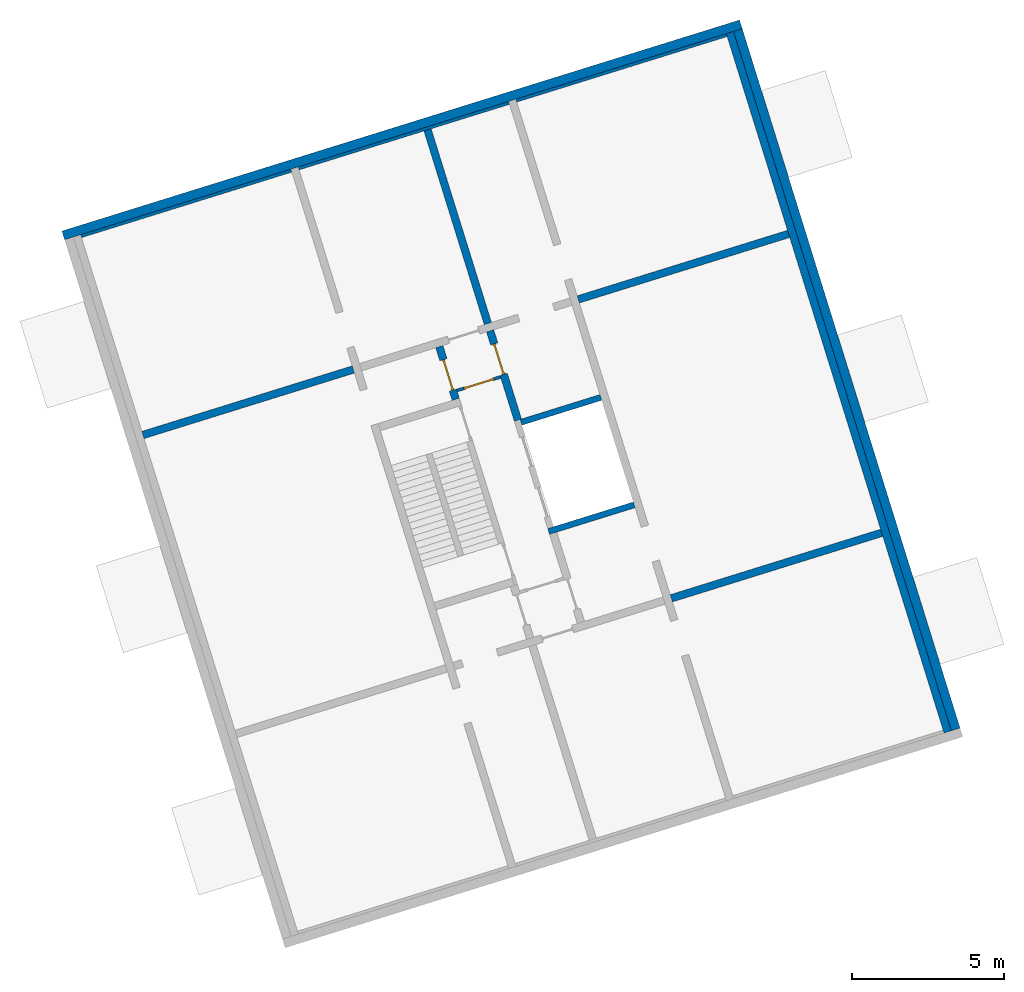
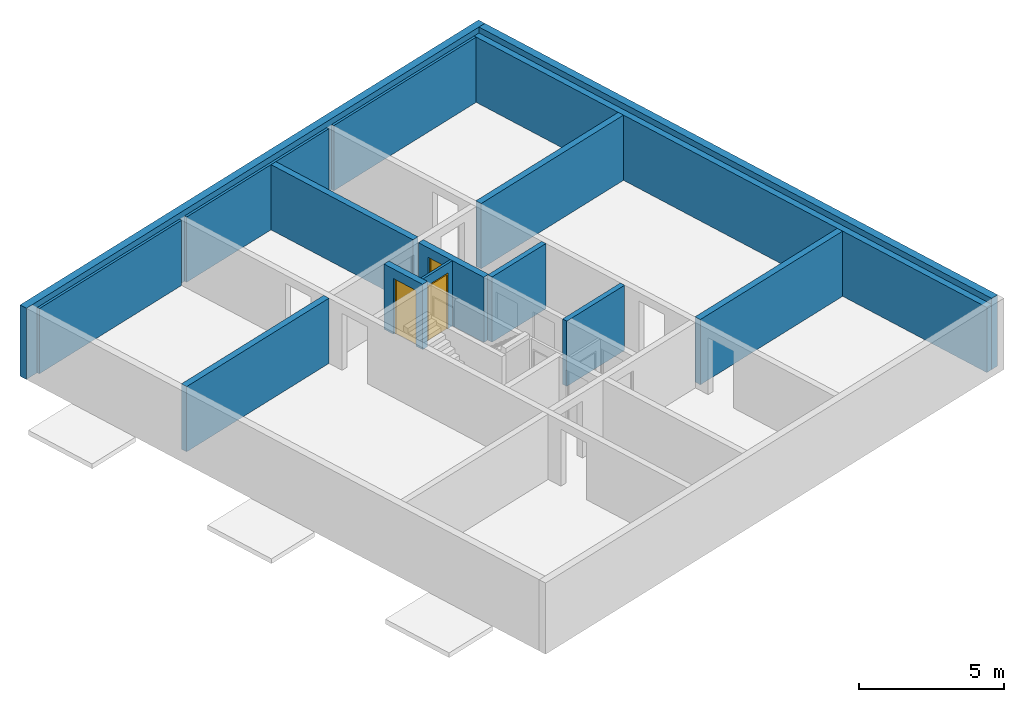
# One storey, part 2 of 4: 15 walls, 3 doors, 3 openings.
"""IFC4 building model written with IfcOpenShell, lengths in metres."""

import ifcopenshell
import ifcopenshell.guid

model = None  # the IFC model being written
_history = None  # IfcOwnerHistory: only IFC2X3 demands one
_inside = {}  # id of a spatial element -> (the spatial element, [elements in it])
_under = {}  # id of a project, library or spatial element -> (it, [spatial elements below it])
_declared = {}  # id of a project -> (the project, [libraries it declares])
_typed = {}  # id of a type object -> (the type object, [elements of that type])
_made_of = {}  # id of a material, layer set ... -> (it, [elements and type objects made of it])


def new_model(schema):
    """Start an empty IFC model of exactly this schema.

    Asked for "IFC4X3", IfcOpenShell would pick the latest addendum, in which some entities
    have other attributes; the version numbers below select the first issue.
    IFC2X3 requires an IfcOwnerHistory on every rooted entity: one is made here for all.
    """
    global model, _history
    if schema == "IFC4X3":
        model = ifcopenshell.file(schema_version=(4, 3, 0, 0))
    else:
        model = ifcopenshell.file(schema=schema)
    _inside.clear()
    _under.clear()
    _declared.clear()
    _typed.clear()
    _made_of.clear()
    _history = None
    if model.schema == "IFC2X3":
        org = make("IfcOrganization", Name="unknown")
        user = make(
            "IfcPersonAndOrganization",
            ThePerson=make("IfcPerson", FamilyName="unknown"),
            TheOrganization=org,
        )
        app = make(
            "IfcApplication",
            ApplicationDeveloper=org,
            Version="unknown",
            ApplicationFullName="unknown",
            ApplicationIdentifier="unknown",
        )
        _history = make(
            "IfcOwnerHistory",
            OwningUser=user,
            OwningApplication=app,
            ChangeAction="ADDED",
            CreationDate=0,
        )
    return model


def make(cls, **values):
    """One entity of the class cls with the attributes given. An attribute that is None is left unset."""
    return model.create_entity(
        cls, **{name: value for name, value in values.items() if value is not None}
    )


def entity(cls, *values):
    """Any entity or typed value of the class cls, its attributes in the order of the schema. None: left unset."""
    e = model.create_entity(cls)
    for i, value in enumerate(values):
        if value is not None:
            e[i] = value
    return e


def rooted(cls, **values):
    """An entity with a GlobalId (a new one), such as an element, a storey or a relation."""
    return make(cls, GlobalId=ifcopenshell.guid.new(), OwnerHistory=_history, **values)


def si_unit(unit_type, name, prefix=None):
    """IfcSIUnit, for example si_unit("LENGTHUNIT", "METRE", prefix="MILLI")."""
    return make("IfcSIUnit", UnitType=unit_type, Prefix=prefix, Name=name)


def converted_unit(unit_type, name, factor, base, dimensions=None, offset=None):
    """IfcConversionBasedUnit, such as the inch: factor (a typed value) times the base unit."""
    return make(
        "IfcConversionBasedUnit"
        if offset is None
        else "IfcConversionBasedUnitWithOffset",
        ConversionOffset=offset,
        Dimensions=None
        if dimensions is None
        else entity("IfcDimensionalExponents", *dimensions),
        UnitType=unit_type,
        Name=name,
        ConversionFactor=make(
            "IfcMeasureWithUnit", ValueComponent=factor, UnitComponent=base
        ),
    )


def assignment(units):
    """IfcUnitAssignment: the units of a project."""
    return None if units is None else make("IfcUnitAssignment", Units=units)


def point(xyz):
    """IfcCartesianPoint."""
    return None if xyz is None else make("IfcCartesianPoint", Coordinates=xyz)


def direction(xyz):
    """IfcDirection."""
    return None if xyz is None else make("IfcDirection", DirectionRatios=xyz)


def frame(location, z_axis=None, x_axis=None):
    """IfcAxis2Placement3D, a coordinate frame: its origin and axes. An axis left out is left unset."""
    return make(
        "IfcAxis2Placement3D",
        Location=point(location),
        Axis=direction(z_axis),
        RefDirection=direction(x_axis),
    )


def origin():
    """The frame at (0, 0, 0) with its axes left unset."""
    return frame((0.0, 0.0, 0.0))


def place(relative_to, where):
    """IfcLocalPlacement: puts the frame where relative to a parent placement (None: the world)."""
    return make(
        "IfcLocalPlacement", PlacementRelTo=relative_to, RelativePlacement=where
    )


def context(
    kind, dimensions, precision=None, world=None, true_north=None, identifier=None
):
    """IfcGeometricRepresentationContext, for example the 3D "Model" context."""
    return make(
        "IfcGeometricRepresentationContext",
        ContextIdentifier=identifier,
        ContextType=kind,
        CoordinateSpaceDimension=dimensions,
        Precision=precision,
        WorldCoordinateSystem=world,
        TrueNorth=true_north,
    )


def subcontext(parent, identifier, kind, view, scale=None):
    """IfcGeometricRepresentationSubContext, for example "Body" below "Model"."""
    return make(
        "IfcGeometricRepresentationSubContext",
        ContextIdentifier=identifier,
        ContextType=kind,
        ParentContext=parent,
        TargetScale=scale,
        TargetView=view,
    )


def project(units=None, contexts=None):
    """IfcProject with its units and contexts."""
    return rooted(
        "IfcProject",
        Name="project",
        RepresentationContexts=contexts,
        UnitsInContext=assignment(units),
    )


def spatial(cls, under=None, at=None, **own):
    """A site, building, storey or space (cls), placed at a placement, below another one or the project."""
    s = rooted(cls, ObjectPlacement=at, **own)
    if under is not None:
        _under.setdefault(under.id(), (under, []))[1].append(s)
    return s


def point_list(points):
    """IfcCartesianPointList2D or 3D."""
    cls = (
        "IfcCartesianPointList2D" if len(points[0]) == 2 else "IfcCartesianPointList3D"
    )
    return make(cls, CoordList=points)


def indexed_curve(points, segments=None, self_intersect=None):
    """IfcIndexedPolyCurve: lines and arcs through numbered points (the first is 1)."""
    return make(
        "IfcIndexedPolyCurve",
        Points=point_list(points),
        Segments=segments,
        SelfIntersect=self_intersect,
    )


def outline(outer, holes=None, kind="AREA"):
    """IfcArbitraryClosedProfileDef: a profile drawn as a closed curve; with holes, ...WithVoids."""
    if holes is None:
        return make("IfcArbitraryClosedProfileDef", ProfileType=kind, OuterCurve=outer)
    return make(
        "IfcArbitraryProfileDefWithVoids",
        ProfileType=kind,
        OuterCurve=outer,
        InnerCurves=holes,
    )


def extrude(swept, where, along, depth):
    """IfcExtrudedAreaSolid: the profile swept, set in the frame where, extruded along a direction by depth."""
    return make(
        "IfcExtrudedAreaSolid",
        SweptArea=swept,
        Position=where,
        ExtrudedDirection=direction(along),
        Depth=depth,
    )


def polygons(points, faces, closed=None, point_numbers=None):
    """IfcPolygonalFaceSet: a face is its outer loop, then its inner loops; points numbered from 1."""
    made = []
    for loops in faces:
        if len(loops) == 1:
            made.append(make("IfcIndexedPolygonalFace", CoordIndex=loops[0]))
        else:
            made.append(
                make(
                    "IfcIndexedPolygonalFaceWithVoids",
                    CoordIndex=loops[0],
                    InnerCoordIndices=loops[1:],
                )
            )
    return make(
        "IfcPolygonalFaceSet",
        Coordinates=point_list(points),
        Closed=closed,
        Faces=made,
        PnIndex=point_numbers,
    )


def shape(context_of_items, identifier, shape_type, items):
    """IfcShapeRepresentation: the items that make up one representation, for example the "Body"."""
    return make(
        "IfcShapeRepresentation",
        ContextOfItems=context_of_items,
        RepresentationIdentifier=identifier,
        RepresentationType=shape_type,
        Items=items,
    )


def source(mapping_origin, context_of_items, identifier, shape_type, items):
    """IfcRepresentationMap: a shape defined once, which mapped items show again and again."""
    return make(
        "IfcRepresentationMap",
        MappingOrigin=mapping_origin,
        MappedRepresentation=shape(context_of_items, identifier, shape_type, items),
    )


def transform(
    local_origin,
    x_axis=None,
    y_axis=None,
    z_axis=None,
    scale=None,
    scale2=None,
    scale3=None,
    uniform=True,
):
    """IfcCartesianTransformationOperator3D, or its non-uniform kind. x_axis, y_axis, z_axis: its Axis1, 2, 3."""
    if uniform:
        return make(
            "IfcCartesianTransformationOperator3D",
            Axis1=direction(x_axis),
            Axis2=direction(y_axis),
            LocalOrigin=point(local_origin),
            Scale=scale,
            Axis3=direction(z_axis),
        )
    return make(
        "IfcCartesianTransformationOperator3DnonUniform",
        Axis1=direction(x_axis),
        Axis2=direction(y_axis),
        LocalOrigin=point(local_origin),
        Scale=scale,
        Axis3=direction(z_axis),
        Scale2=scale2,
        Scale3=scale3,
    )


def mapped(mapping_source, mapping_target):
    """IfcMappedItem: shows the shape of a source again, moved by a transform."""
    return make(
        "IfcMappedItem", MappingSource=mapping_source, MappingTarget=mapping_target
    )


def material(Name=None, Category=None):
    """IfcMaterial."""
    return make("IfcMaterial", Name=Name, Category=Category)


def constituent(of_material, Name=None, Category=None, fraction=None):
    """IfcMaterialConstituent: one of the materials an element consists of."""
    return make(
        "IfcMaterialConstituent",
        Name=Name,
        Material=of_material,
        Fraction=fraction,
        Category=Category,
    )


def constituent_set(constituents=None, Name=None):
    """IfcMaterialConstituentSet."""
    return make(
        "IfcMaterialConstituentSet", Name=Name, MaterialConstituents=constituents
    )


def made_of(thing, what):
    """Note that an element or type object is made of a material, layer set ...; save() writes the relation."""
    if what is not None:
        _made_of.setdefault(what.id(), (what, []))[1].append(thing)
    return thing


def type_object(cls, material=None, **own):
    """A type object (cls), such as IfcWallType, which elements share."""
    return made_of(rooted(cls, **own), material)


def type_shapes(of_type, sources):
    """Give a type object the sources (RepresentationMaps) that its elements show as mapped items."""
    of_type.RepresentationMaps = sources


def element(
    cls,
    number,
    at=None,
    inside=None,
    cuts=None,
    type_object=None,
    material=None,
    context=None,
    identifier="Body",
    shape_type=None,
    held_by="IfcProductDefinitionShape",
    body=None,
    shapes=None,
    **own,
):
    """One element of the class cls, such as IfcWall. Its Tag is "e" and its number.

    at: its placement. inside: the storey or other place that contains it. cuts: it is an
    opening in that element (IfcRelVoidsElement). A single representation is given by context,
    identifier, shape_type and body (its items); several are given by shapes. held_by: the class
    of the entity that holds the representations. save() writes the other relations.
    """
    e = rooted(cls, Tag="e%d" % number, ObjectPlacement=at, **own)
    if body is not None:
        shapes = [shape(context, identifier, shape_type, body)]
    if shapes is not None:
        e.Representation = make(held_by, Representations=shapes)
    if inside is not None:
        _inside.setdefault(inside.id(), (inside, []))[1].append(e)
    if cuts is not None:
        rooted(
            "IfcRelVoidsElement", RelatingBuildingElement=cuts, RelatedOpeningElement=e
        )
    if type_object is not None:
        _typed.setdefault(type_object.id(), (type_object, []))[1].append(e)
    return made_of(e, material)


def fill(opening, filler):
    """IfcRelFillsElement: the door or window that sits in an opening."""
    return rooted(
        "IfcRelFillsElement",
        RelatingOpeningElement=opening,
        RelatedBuildingElement=filler,
    )


def aggregate(whole, parts):
    """IfcRelAggregates: a whole, such as a stair, and the parts it consists of."""
    return rooted("IfcRelAggregates", RelatingObject=whole, RelatedObjects=parts)


def save(model, path):
    """Write the relations noted so far, then the file.

    IfcRelAggregates (storeys below a building ...), IfcRelContainedInSpatialStructure (elements
    in a storey), IfcRelDefinesByType, IfcRelAssociatesMaterial and IfcRelDeclares: one each for
    every whole, place, type object, material and project.
    """
    for whole, parts in _under.values():
        aggregate(whole, parts)
    for where, things in _inside.values():
        rooted(
            "IfcRelContainedInSpatialStructure",
            RelatedElements=things,
            RelatingStructure=where,
        )
    for kind, things in _typed.values():
        rooted("IfcRelDefinesByType", RelatedObjects=things, RelatingType=kind)
    for what, things in _made_of.values():
        rooted("IfcRelAssociatesMaterial", RelatedObjects=things, RelatingMaterial=what)
    for by, libraries in _declared.values():
        rooted("IfcRelDeclares", RelatingContext=by, RelatedDefinitions=libraries)
    model.write(path)


model = new_model("IFC4")

# Units and contexts
model_context = context("Model", 3, precision=1e-05, world=origin(), true_north=direction((6.12323399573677e-17, 1.0)))
body_context = subcontext(model_context, "Body", "Model", "MODEL_VIEW")
ifc_project = project(units=[si_unit("LENGTHUNIT", "METRE"), si_unit("AREAUNIT", "SQUARE_METRE"), si_unit("VOLUMEUNIT", "CUBIC_METRE"), converted_unit("PLANEANGLEUNIT", "DEGREE", entity("IfcPlaneAngleMeasure", 0.0174532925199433), si_unit("PLANEANGLEUNIT", "RADIAN"), dimensions=[0, 0, 0, 0, 0, 0, 0])], contexts=[model_context])

# Site, building, storey
site_placement = place(None, frame((13.1347999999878, 11.9886000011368, 0.0), z_axis=(0.0, 0.0, 1.0), x_axis=(0.954770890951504, 0.297342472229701, 0.0)))
site = spatial("IfcSite", under=ifc_project, at=site_placement, Name="Schiehaven", CompositionType="ELEMENT")
building_placement = place(site_placement, origin())
building = spatial("IfcBuilding", under=site, at=building_placement, Name="VORM huis", CompositionType="ELEMENT")
storey_placement = place(building_placement, frame((0.0, 0.0, 21.9)))
storey = spatial("IfcBuildingStorey", under=building, at=storey_placement, Name="07 zevende verdieping", CompositionType="ELEMENT", Elevation=21.9)

# Walls
ifc_material_1 = material(Name="beton_gewapend_ihw", Category="Miscellaneous")
wall_type_1 = type_object("IfcWallType", Name="Basic Wall:28_WA_skelet_wand 250mm_gen", PredefinedType="STANDARD")
wall_1_placement = place(storey_placement, frame((80.0, 5.0, 0.0), z_axis=(0.0, 0.0, 1.0), x_axis=(0.0, 1.0, 0.0)))
element("IfcWall", 1, at=wall_1_placement, inside=storey, type_object=wall_type_1, material=ifc_material_1, Name="Constructieve wand", ObjectType="Wand", PredefinedType="NOTDEFINED", context=body_context, shape_type="SweptSolid", body=[
    extrude(outline(indexed_curve([(24.1, 0.125000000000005), (1.84706995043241e-16, 0.125000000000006), (-1.84706995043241e-16, -0.125000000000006), (24.1, -0.125000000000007), (24.1, 0.125000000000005)], self_intersect=False)), origin(), (0.0, 0.0, 1.0), 2.75),
])
ifc_material_2 = material(Name="ntb_ntb_ntb", Category="Miscellaneous")
wall_type_2 = type_object("IfcWallType", Name="Basic Wall:21_WA_gevel_binnenspouwwand 100mm_gen", PredefinedType="STANDARD")
wall_2_placement = place(storey_placement, frame((79.8750000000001, 29.0499999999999, 0.0), z_axis=(0.0, 0.0, 1.0), x_axis=(-1.0, 0.0, 0.0)))
element("IfcWall", 2, at=wall_2_placement, inside=storey, type_object=wall_type_2, material=ifc_material_2, Name="Binnenspouwblad", ObjectType="Wand", PredefinedType="NOTDEFINED", context=body_context, shape_type="SweptSolid", body=[
    extrude(outline(indexed_curve([(7.24999999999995, 0.0500000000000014), (-2.83038752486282e-17, 0.0500000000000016), (2.83038752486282e-17, -0.0500000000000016), (7.24999999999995, -0.0500000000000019), (7.24999999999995, 0.0500000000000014)], self_intersect=False)), origin(), (0.0, 0.0, 1.0), 2.75),
])
wall_3_placement = place(storey_placement, frame((65.1250000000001, 29.0499999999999, 0.0)))
element("IfcWall", 3, at=wall_3_placement, inside=storey, type_object=wall_type_2, material=ifc_material_2, Name="Binnenspouwblad", ObjectType="Wand", PredefinedType="NOTDEFINED", context=body_context, shape_type="SweptSolid", body=[
    extrude(outline(indexed_curve([(7.24999999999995, 0.0500000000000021), (-1.82497125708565e-16, 0.0500000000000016), (1.82497125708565e-16, -0.0500000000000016), (7.24999999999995, -0.0500000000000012), (7.24999999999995, 0.0500000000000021)], self_intersect=False)), origin(), (0.0, 0.0, 1.0), 2.75),
])
wall_4_placement = place(storey_placement, frame((64.8750000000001, 29.0499999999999, 0.0), z_axis=(0.0, 0.0, 1.0), x_axis=(-1.0, 0.0, 0.0)))
element("IfcWall", 4, at=wall_4_placement, inside=storey, type_object=wall_type_2, material=ifc_material_2, Name="Binnenspouwblad", ObjectType="Wand", PredefinedType="NOTDEFINED", context=body_context, shape_type="SweptSolid", body=[
    extrude(outline(indexed_curve([(7.24999999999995, 0.0500000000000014), (-2.83038752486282e-17, 0.0500000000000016), (2.83038752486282e-17, -0.0500000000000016), (7.24999999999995, -0.0500000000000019), (7.24999999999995, 0.0500000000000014)], self_intersect=False)), origin(), (0.0, 0.0, 1.0), 2.75),
])
wall_type_3 = type_object("IfcWallType", Name="Basic Wall: 300mm_gen", PredefinedType="STANDARD")
wall_5_placement = place(storey_placement, frame((80.2750000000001, 5.0, 0.0), z_axis=(0.0, 0.0, 1.0), x_axis=(0.0, 1.0, 0.0)))
element("IfcWall", 5, at=wall_5_placement, inside=storey, type_object=wall_type_3, material=ifc_material_2, Name="Gevelwand", ObjectType="Wand", PredefinedType="NOTDEFINED", context=body_context, shape_type="SweptSolid", body=[
    extrude(outline(indexed_curve([(24.1, 0.150000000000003), (-2.29983128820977e-16, 0.150000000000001), (2.29983128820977e-16, -0.150000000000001), (24.1, -0.149999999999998), (24.1, 0.150000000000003)], self_intersect=False)), origin(), (0.0, 0.0, 1.0), 3.0),
])
wall_6_placement = place(storey_placement, frame((80.4250000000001, 29.2499999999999, 0.0), z_axis=(0.0, 0.0, 1.0), x_axis=(-1.0, 0.0, 0.0)))
element("IfcWall", 6, at=wall_6_placement, inside=storey, type_object=wall_type_3, material=ifc_material_2, Name="Gevelwand", ObjectType="Wand", PredefinedType="NOTDEFINED", context=body_context, shape_type="SweptSolid", body=[
    extrude(outline(indexed_curve([(23.35, 0.150000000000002), (-2.29983128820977e-16, 0.150000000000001), (2.29983128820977e-16, -0.150000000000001), (23.35, -0.149999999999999), (23.35, 0.150000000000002)], self_intersect=False)), origin(), (0.0, 0.0, 1.0), 3.0),
])
ifc_material_3 = material(Name="beton_gewapend_prefab-element", Category="Miscellaneous")
wall_type_4 = type_object("IfcWallType", Name="Basic Wall:28_WA_skelet_wand 200mm_gen", PredefinedType="STANDARD")
wall_7_placement = place(storey_placement, frame((72.3750000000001, 15.1999999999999, 0.0), z_axis=(0.0, 0.0, 1.0), x_axis=(-1.0, 0.0, 0.0)))
element("IfcWall", 7, at=wall_7_placement, inside=storey, type_object=wall_type_4, material=ifc_material_3, Name="Constructieve wand", ObjectType="Wand", PredefinedType="NOTDEFINED", context=body_context, shape_type="SweptSolid", body=[
    extrude(outline(indexed_curve([(2.95000000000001, 0.0999999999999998), (-2.97399835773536e-17, 0.0999999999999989), (2.97399835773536e-17, -0.0999999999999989), (2.95000000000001, -0.099999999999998), (2.95000000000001, 0.0999999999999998)], self_intersect=False)), origin(), (0.0, 0.0, 1.0), 2.75),
])
wall_8_placement = place(storey_placement, frame((69.6250000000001, 18.8999999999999, 0.0)))
element("IfcWall", 8, at=wall_8_placement, inside=storey, type_object=wall_type_4, material=ifc_material_3, Name="Constructieve wand", ObjectType="Wand", PredefinedType="NOTDEFINED", context=body_context, shape_type="SweptSolid", body=[
    extrude(outline(indexed_curve([(2.75, 0.0999999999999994), (-1.75746575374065e-16, 0.100000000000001), (1.75746575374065e-16, -0.100000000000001), (2.75, -0.100000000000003), (2.75, 0.0999999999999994)], self_intersect=False)), origin(), (0.0, 0.0, 1.0), 2.75),
])

# Wall, opening, door
wall_type_5 = type_object("IfcWallType", Name="Basic Wall:22_WA_afbouw_binnenwand 250mm_gen", PredefinedType="STANDARD")
wall_9_placement = place(storey_placement, frame((67.8000000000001, 20.2599999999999, 0.0), z_axis=(0.0, 0.0, 1.0), x_axis=(0.0, 1.0, 0.0)))
wall_9 = element("IfcWall", 9, at=wall_9_placement, inside=storey, type_object=wall_type_5, material=ifc_material_2, Name="Binnenwand", ObjectType="Wand", PredefinedType="NOTDEFINED", context=body_context, shape_type="Tessellation", body=[
    polygons([(0.0, -0.124999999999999, 0.0), (0.215000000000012, -0.125000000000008, 0.0), (0.315000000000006, -0.124999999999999, 0.0), (0.315000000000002, -0.124999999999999, 2.34999999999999), (1.36500000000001, -0.125000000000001, 2.34999999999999), (1.36500000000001, -0.125000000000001, 0.0), (1.81499999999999, -0.125000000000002, 0.0), (1.81499999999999, -0.125000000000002, 2.75), (0.315000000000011, -0.125000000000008, 2.75), (0.215000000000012, -0.125000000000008, 2.75), (0.0, -0.124999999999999, 2.75), (0.315000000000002, 0.124999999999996, 2.34999999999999), (0.315000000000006, 0.124999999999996, 0.0), (0.0, 0.124999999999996, 0.0), (0.0, 0.124999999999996, 2.75), (1.81499999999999, 0.124999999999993, 2.75), (1.81499999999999, 0.124999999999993, 0.0), (1.36500000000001, 0.124999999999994, 0.0), (1.36500000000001, 0.124999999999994, 2.34999999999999)], [[[1, 2, 3, 4, 5, 6, 7, 8, 9, 10, 11]], [[12, 13, 14, 15, 16, 17, 18, 19]], [[14, 13, 3, 2, 1]], [[8, 7, 17, 16]], [[11, 10, 9, 8, 16, 15]], [[1, 11, 15, 14]], [[6, 5, 19, 18]], [[4, 3, 13, 12]], [[5, 4, 12, 19]], [[18, 17, 7, 6]]], closed=True),
])
opening_1_placement = place(wall_9_placement, frame((1.36500000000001, 0.124999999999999, 0.0)))
opening_1 = element("IfcOpeningElement", 10, at=opening_1_placement, cuts=wall_9, Name="Woningtoegangsdeur", PredefinedType="OPENING", context=body_context, shape_type="SweptSolid", body=[
    extrude(outline(indexed_curve([(2.34999999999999, 3.29504974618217e-30), (2.34999999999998, 1.05), (0.0, 1.05), (2.16573425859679e-15, 3.29504974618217e-30), (2.34999999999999, 3.29504974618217e-30)], self_intersect=False)), frame((0.0, 0.0, 0.0), z_axis=(0.0, -1.0, 0.0), x_axis=(0.0, 0.0, 1.0)), (0.0, 0.0, 1.0), 0.25),
])
ifc_material_4 = material(Name="PD_a_binnenwandopeningen", Category="Miscellaneous")
ifc_constituent_1 = constituent(ifc_material_4, Name="PD_a_binnenwandopeningen", Category="Miscellaneous")
ifc_material_5 = material(Name="metaal_aluminium_ntb", Category="Miscellaneous")
ifc_constituent_2 = constituent(ifc_material_5, Name="metaal_aluminium_ntb", Category="Miscellaneous")
ifc_constituent_set_1 = constituent_set(constituents=[ifc_constituent_1, ifc_constituent_2])
ifc_constituent_3 = constituent(ifc_material_4, Name="PD_a_binnenwandopeningen", Category="Miscellaneous")
ifc_constituent_4 = constituent(ifc_material_5, Name="Panel", Category="Miscellaneous")
ifc_constituent_set_2 = constituent_set(constituents=[ifc_constituent_3, ifc_constituent_4])
door_type_1 = type_object("IfcDoorType", Name="32_DO_binnendeur enkel:woningtoegangsdeur", OperationType="REVOLVING", PredefinedType="DOOR", material=ifc_constituent_set_2)
shared_shape_1 = source(origin(), body_context, "Body", "SweptSolid", [
    extrude(outline(indexed_curve([(0.475, -1.16249999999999), (0.525000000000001, -1.16249999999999), (0.525000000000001, 1.18749999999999), (-0.525000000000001, 1.18749999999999), (-0.525000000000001, -1.16249999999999), (-0.475, -1.16249999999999), (-0.475, 1.13749999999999), (0.475, 1.13749999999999), (0.475, -1.16249999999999)], self_intersect=False)), frame((0.525000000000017, 0.174999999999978, 1.16249999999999), z_axis=(0.0, -1.0, 0.0), x_axis=(1.0, 0.0, 0.0)), (0.0, 0.0, 1.0), 0.1),
    extrude(outline(indexed_curve([(-0.475, -0.025), (0.475, -0.025), (0.475, 0.025), (-0.475, 0.025), (-0.475, -0.025)], self_intersect=False)), frame((0.525000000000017, 0.12499999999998, 0.0)), (0.0, 0.0, 1.0), 2.29999999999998),
])
type_shapes(door_type_1, [shared_shape_1])
door_1_placement = place(opening_1_placement, frame((0.0, 0.0, 0.0), z_axis=(0.0, 0.0, 1.0), x_axis=(-1.0, 0.0, 0.0)))
door_1 = element("IfcDoor", 11, at=door_1_placement, inside=storey, type_object=door_type_1, material=ifc_constituent_set_1, Name="Woningtoegangsdeur", ObjectType="Deur", OperationType="REVOLVING", OverallHeight=2.34999999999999, OverallWidth=1.05, PredefinedType="DOOR", context=body_context, shape_type="MappedRepresentation", body=[
    mapped(shared_shape_1, transform((0.0, 0.0, 0.0), scale=1.0)),
])
fill(opening_1, door_1)

wall_10_placement = place(storey_placement, frame((69.5500000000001, 19.0, 0.0), z_axis=(0.0, 0.0, 1.0), x_axis=(0.0, 1.0, 0.0)))
wall_10 = element("IfcWall", 12, at=wall_10_placement, inside=storey, type_object=wall_type_5, material=ifc_material_2, Name="Binnenwand", ObjectType="Wand", PredefinedType="NOTDEFINED", context=body_context, shape_type="Tessellation", body=[
    polygons([(2.62500000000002, -0.125000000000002, 2.34999999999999), (2.62500000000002, -0.125000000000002, 0.0), (3.07499999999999, -0.125000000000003, 0.0), (3.07499999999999, -0.125000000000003, 2.75), (2.16573425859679e-15, -0.125000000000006, 2.75), (2.16573425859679e-15, -0.125000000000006, 0.0), (1.57500000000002, -0.125, 0.0), (1.57500000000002, -0.125, 2.34999999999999), (3.075, 0.125000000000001, 0.0), (2.62500000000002, 0.125000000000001, 0.0), (2.62500000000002, 0.125000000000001, 2.34999999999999), (1.57500000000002, 0.125000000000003, 2.34999999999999), (1.57500000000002, 0.125000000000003, 0.0), (1.475, 0.125000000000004, 0.0), (4.33146851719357e-15, 0.125000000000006, 0.0), (4.33146851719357e-15, 0.125000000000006, 2.75), (1.475, 0.125000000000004, 2.75), (1.575, 0.125000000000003, 2.75), (3.075, 0.125000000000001, 2.75)], [[[1, 2, 3, 4, 5, 6, 7, 8]], [[9, 10, 11, 12, 13, 14, 15, 16, 17, 18, 19]], [[7, 6, 15, 14, 13]], [[4, 3, 9, 19]], [[5, 4, 19, 18, 17, 16]], [[6, 5, 16, 15]], [[13, 12, 8, 7]], [[11, 10, 2, 1]], [[12, 11, 1, 8]], [[3, 2, 10, 9]]], closed=True),
])
opening_2_placement = place(wall_10_placement, frame((1.57499999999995, -0.124999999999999, 0.0)))
opening_2 = element("IfcOpeningElement", 13, at=opening_2_placement, cuts=wall_10, Name="Woningtoegangsdeur", PredefinedType="OPENING", context=body_context, shape_type="SweptSolid", body=[
    extrude(outline(indexed_curve([(2.34999999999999, 3.4855615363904e-30), (2.34999999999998, 1.05), (0.0, 1.05), (2.16573425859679e-15, 3.4855615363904e-30), (2.34999999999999, 3.4855615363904e-30)], self_intersect=False)), frame((0.0, 0.0, 0.0), z_axis=(0.0, 1.0, 0.0), x_axis=(0.0, 0.0, 1.0)), (0.0, 0.0, 1.0), 0.25),
])
ifc_constituent_5 = constituent(ifc_material_4, Name="PD_a_binnenwandopeningen", Category="Miscellaneous")
ifc_constituent_6 = constituent(ifc_material_5, Name="metaal_aluminium_ntb", Category="Miscellaneous")
ifc_constituent_set_3 = constituent_set(constituents=[ifc_constituent_5, ifc_constituent_6])
door_2_placement = place(opening_2_placement, origin())
door_2 = element("IfcDoor", 14, at=door_2_placement, inside=storey, type_object=door_type_1, material=ifc_constituent_set_3, Name="Woningtoegangsdeur", ObjectType="Deur", OperationType="REVOLVING", OverallHeight=2.34999999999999, OverallWidth=1.05, PredefinedType="DOOR", context=body_context, shape_type="MappedRepresentation", body=[
    mapped(shared_shape_1, transform((0.0, 0.0, 0.0), scale=1.0)),
])
fill(opening_2, door_2)

# Walls
wall_11_placement = place(storey_placement, frame((72.6250000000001, 22.1999999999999, 0.0)))
element("IfcWall", 15, at=wall_11_placement, inside=storey, type_object=wall_type_5, material=ifc_material_2, Name="Binnenwand", ObjectType="Wand", PredefinedType="NOTDEFINED", context=body_context, shape_type="SweptSolid", body=[
    extrude(outline(indexed_curve([(7.24999999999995, 0.125000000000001), (2.00742282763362e-17, 0.125000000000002), (-2.00742282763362e-17, -0.125000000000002), (7.24999999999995, -0.125000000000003), (7.24999999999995, 0.125000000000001)], self_intersect=False)), origin(), (0.0, 0.0, 1.0), 2.75),
])
wall_12_placement = place(storey_placement, frame((69.5500000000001, 22.3249999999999, 0.0), z_axis=(0.0, 0.0, 1.0), x_axis=(0.0, 1.0, 0.0)))
element("IfcWall", 16, at=wall_12_placement, inside=storey, type_object=wall_type_5, material=ifc_material_2, Name="Binnenwand", ObjectType="Wand", PredefinedType="NOTDEFINED", context=body_context, shape_type="SweptSolid", body=[
    extrude(outline(indexed_curve([(6.67500000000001, 0.124999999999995), (2.13043668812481e-16, 0.124999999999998), (-2.13043668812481e-16, -0.124999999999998), (6.67500000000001, -0.125), (6.67500000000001, 0.124999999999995)], self_intersect=False)), origin(), (0.0, 0.0, 1.0), 2.75),
])
wall_13_placement = place(storey_placement, frame((64.8750000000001, 22.1999999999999, 0.0), z_axis=(0.0, 0.0, 1.0), x_axis=(-1.0, 0.0, 0.0)))
element("IfcWall", 17, at=wall_13_placement, inside=storey, type_object=wall_type_5, material=ifc_material_2, Name="Binnenwand", ObjectType="Wand", PredefinedType="NOTDEFINED", context=body_context, shape_type="SweptSolid", body=[
    extrude(outline(indexed_curve([(7.24999999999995, 0.125000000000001), (-2.84367080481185e-16, 0.125000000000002), (2.84367080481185e-16, -0.125000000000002), (7.24999999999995, -0.125000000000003), (7.24999999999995, 0.125000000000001)], self_intersect=False)), origin(), (0.0, 0.0, 1.0), 2.75),
])
wall_14_placement = place(storey_placement, frame((72.6250000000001, 11.8999999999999, 0.0)))
element("IfcWall", 18, at=wall_14_placement, inside=storey, type_object=wall_type_5, material=ifc_material_2, Name="Binnenwand", ObjectType="Wand", PredefinedType="NOTDEFINED", context=body_context, shape_type="SweptSolid", body=[
    extrude(outline(indexed_curve([(7.24999999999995, 0.125000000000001), (-2.79648850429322e-16, 0.125), (2.79648850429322e-16, -0.125), (7.24999999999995, -0.124999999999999), (7.24999999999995, 0.125000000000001)], self_intersect=False)), origin(), (0.0, 0.0, 1.0), 2.75),
])

# Wall, opening, door
wall_type_6 = type_object("IfcWallType", Name="Basic Wall:22_WA_afbouw_binnenwand 100mm_gen", PredefinedType="STANDARD")
wall_15_placement = place(storey_placement, frame((67.9250000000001, 20.5249999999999, 0.0)))
wall_15 = element("IfcWall", 19, at=wall_15_placement, inside=storey, type_object=wall_type_6, material=ifc_material_2, Name="Binnenwand", ObjectType="Wand", PredefinedType="NOTDEFINED", context=body_context, shape_type="Tessellation", body=[
    polygons([(1.49999999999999, -0.0499999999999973, 2.75), (-1.22207551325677e-14, -0.0499999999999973, 2.75), (-1.22207551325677e-14, -0.0499999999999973, 0.0), (0.22499999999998, -0.0500000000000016, 0.0), (0.22499999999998, -0.0500000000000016, 2.34999999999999), (1.27499999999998, -0.0500000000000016, 2.34999999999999), (1.27499999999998, -0.0500000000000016, 0.0), (1.49999999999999, -0.0499999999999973, 0.0), (-1.26612298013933e-14, 0.0500000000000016, 2.75), (1.49999999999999, 0.0500000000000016, 2.75), (1.49999999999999, 0.0500000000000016, 2.34999999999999), (1.49999999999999, 0.0500000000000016, 0.0), (1.27499999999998, 0.0499999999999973, 0.0), (1.27499999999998, 0.0499999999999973, 2.34999999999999), (0.22499999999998, 0.0499999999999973, 2.34999999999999), (0.22499999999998, 0.0499999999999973, 0.0), (-1.26612298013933e-14, 0.0500000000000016, 0.0), (-3.99829276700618e-15, 0.0500000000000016, 2.34999999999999)], [[[1, 2, 3, 4, 5, 6, 7, 8]], [[9, 10, 11, 12, 13, 14, 15, 16, 17, 18]], [[3, 17, 16, 4]], [[2, 1, 10, 9]], [[15, 5, 4, 16]], [[5, 15, 14, 6]], [[6, 14, 13, 7]], [[3, 2, 9, 18, 17]], [[1, 8, 12, 11, 10]], [[12, 8, 7, 13]]], closed=True),
])
opening_3_placement = place(wall_15_placement, frame((1.275, 0.049999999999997, 0.0)))
opening_3 = element("IfcOpeningElement", 20, at=opening_3_placement, cuts=wall_15, Name="Vluchtdeur", PredefinedType="OPENING", context=body_context, shape_type="SweptSolid", body=[
    extrude(outline(indexed_curve([(2.34999999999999, -1.7774791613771e-29), (2.34999999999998, 1.05), (0.0, 1.05), (2.16573425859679e-15, -1.7774791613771e-29), (2.34999999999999, -1.7774791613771e-29)], self_intersect=False)), frame((0.0, 0.0, 0.0), z_axis=(0.0, -1.0, 0.0), x_axis=(0.0, 0.0, 1.0)), (0.0, 0.0, 1.0), 0.1),
])
ifc_constituent_7 = constituent(ifc_material_4, Name="PD_a_binnenwandopeningen", Category="Miscellaneous")
ifc_constituent_8 = constituent(ifc_material_5, Name="metaal_aluminium_ntb", Category="Miscellaneous")
ifc_constituent_set_4 = constituent_set(constituents=[ifc_constituent_7, ifc_constituent_8])
ifc_constituent_9 = constituent(ifc_material_4, Name="PD_a_binnenwandopeningen", Category="Miscellaneous")
ifc_constituent_10 = constituent(ifc_material_5, Name="Panel", Category="Miscellaneous")
ifc_constituent_set_5 = constituent_set(constituents=[ifc_constituent_9, ifc_constituent_10])
door_type_2 = type_object("IfcDoorType", Name="32_DO_binnendeur enkel:binnendeur zelfsluitend 30min", OperationType="NOTDEFINED", PredefinedType="DOOR", material=ifc_constituent_set_5)
shared_shape_2 = source(origin(), body_context, "Body", "SweptSolid", [
    extrude(outline(indexed_curve([(0.475, -1.16249999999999), (0.525, -1.16249999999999), (0.525, 1.18749999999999), (-0.525, 1.18749999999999), (-0.525, -1.16249999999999), (-0.475, -1.16249999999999), (-0.475, 1.13749999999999), (0.475, 1.13749999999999), (0.475, -1.16249999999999)], self_intersect=False)), frame((0.525000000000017, 0.100000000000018, 1.16249999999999), z_axis=(0.0, -1.0, 0.0), x_axis=(1.0, 0.0, 0.0)), (0.0, 0.0, 1.0), 0.1),
    extrude(outline(indexed_curve([(-0.475, -0.025), (0.475, -0.025), (0.475, 0.025), (-0.475, 0.025), (-0.475, -0.025)], self_intersect=False)), frame((0.525000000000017, 0.0499999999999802, 0.0)), (0.0, 0.0, 1.0), 2.29999999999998),
])
type_shapes(door_type_2, [shared_shape_2])
door_3_placement = place(opening_3_placement, frame((0.0, 0.0, 0.0), z_axis=(0.0, 0.0, 1.0), x_axis=(-1.0, 0.0, 0.0)))
door_3 = element("IfcDoor", 21, at=door_3_placement, inside=storey, type_object=door_type_2, material=ifc_constituent_set_4, Name="Vluchtdeur", ObjectType="Deur", OperationType="NOTDEFINED", OverallHeight=2.34999999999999, OverallWidth=1.05, PredefinedType="DOOR", context=body_context, shape_type="MappedRepresentation", body=[
    mapped(shared_shape_2, transform((0.0, 0.0, 0.0), scale=1.0)),
])
fill(opening_3, door_3)

save(model, "model.ifc")
